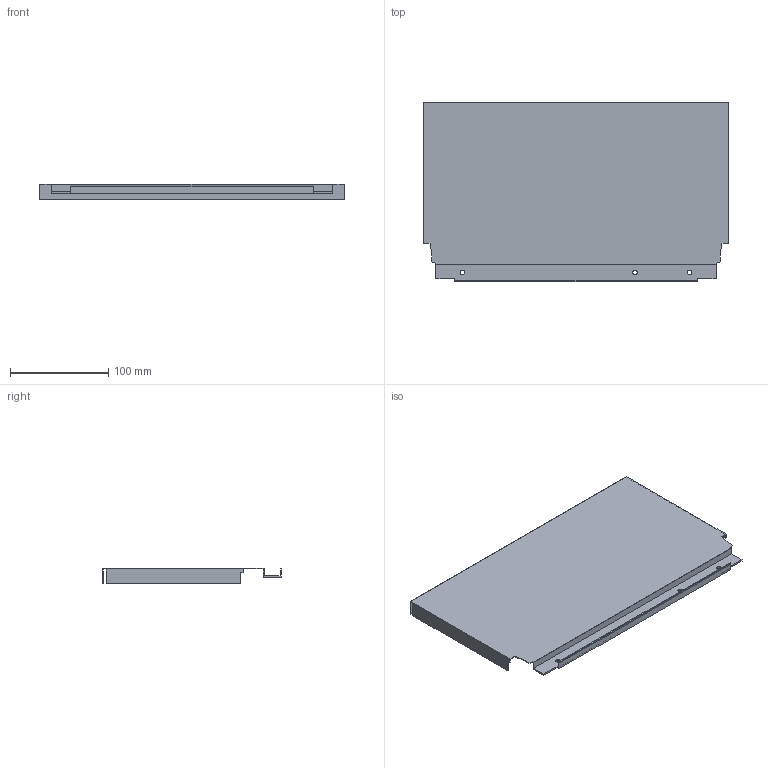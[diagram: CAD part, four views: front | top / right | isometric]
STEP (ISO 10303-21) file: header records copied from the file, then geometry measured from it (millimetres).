
FILE_DESCRIPTION (( 'STEP AP214' ), '1' );
FILE_NAME ('_DWD_XP Stahlrückwand_H182_KAB400_S19.step', '2010-07-08T12:58:04', ( 'grass' ), ( '' ), 'SwSTEP 2.0', 'SolidWorks 2010', '' );
FILE_SCHEMA (( 'AUTOMOTIVE_DESIGN' ));
Length unit declared in the file: millimetre
Products named in the file (1): _DWD_XP Stahlrückwand_H182_KAB400_S19
Bounding box: 311 x 182.49 x 16 mm (x, y, z)
Volume: 59263.9 mm3; surface area: 138355.5 mm2
Topology: 1 solids, 1 shells, 46 faces, 132 edges, 88 vertices
Faces by surface type: plane 40, cylinder 6
Entity records: 1534 total; most frequent: CARTESIAN_POINT 267, ORIENTED_EDGE 264, DIRECTION 238, EDGE_CURVE 132, VECTOR 120, LINE 120, VERTEX_POINT 88, AXIS2_PLACEMENT_3D 59
